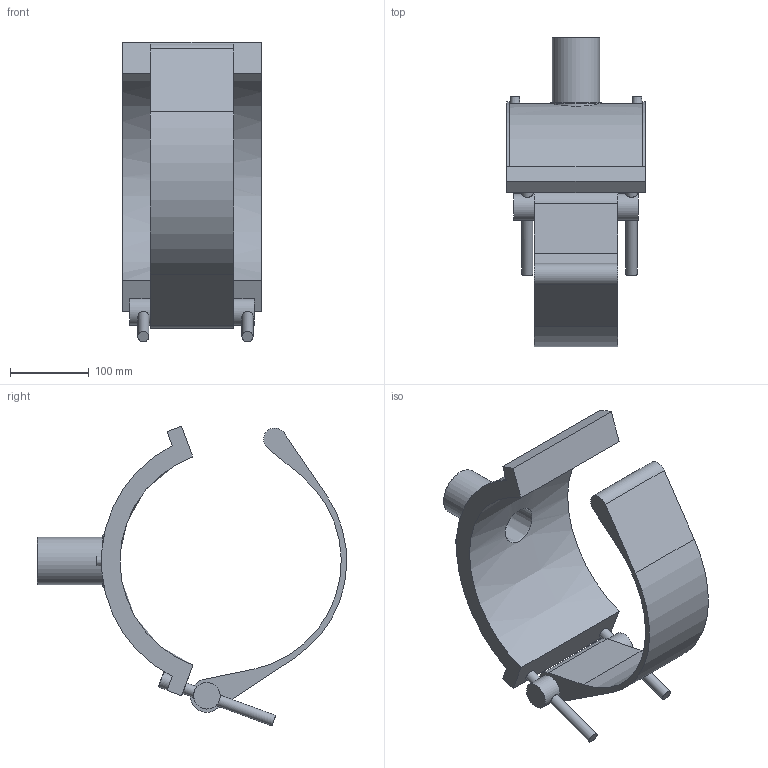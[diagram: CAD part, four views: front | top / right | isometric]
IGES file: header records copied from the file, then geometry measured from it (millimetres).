
Global section: file name: 5958DB03100020.ipt; native system: Autodesk Inventor 2019; preprocessor: unknown; author: KIM; date: 20210830.101325; units: inch
Bounding box: 176.02 x 392.41 x 380.04 mm (x, y, z)
Volume: 2347087.9 mm3; surface area: 337434.8 mm2
Topology: 1 solids, 1 shells, 57 faces, 124 edges, 85 vertices
Faces by surface type: plane 30, cylinder 18, revolution 6, cone 3
Full cylindrical faces by diameter (mm): 4 x2, 14.03 x4, 19.642 x2, 33.672 x2, 60.1 x1, 66.11 x1
